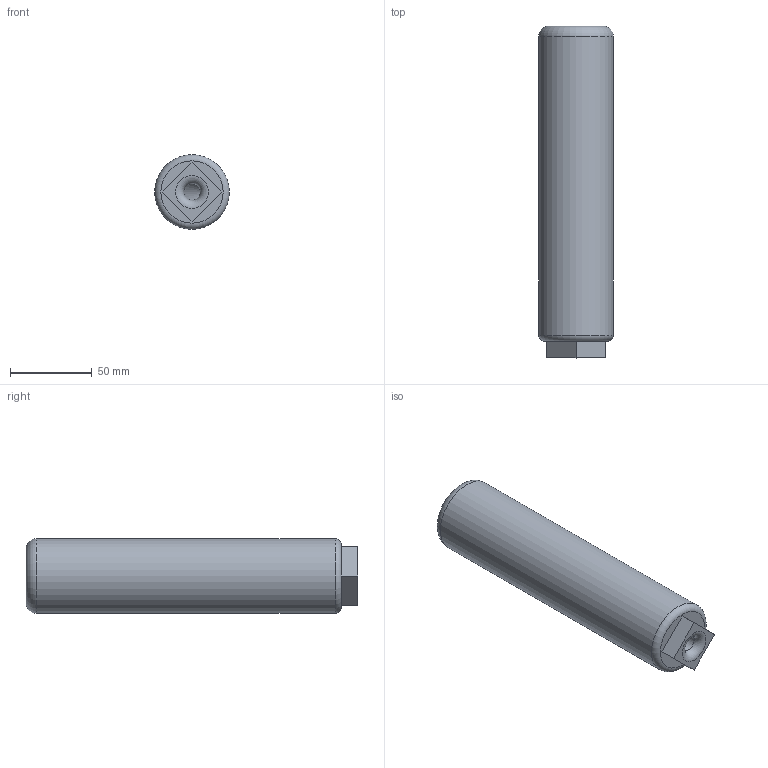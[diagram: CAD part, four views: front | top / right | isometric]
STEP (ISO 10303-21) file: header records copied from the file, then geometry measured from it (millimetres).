
FILE_DESCRIPTION(/* description */ (''),/* implementation_level */ '2;1');
FILE_NAME(/* name */ 'C:/Users/Owner/Desktop/liberator suppressed/STEP Files/36 Caliber versions/36 Cal Liberator Suppressor can 8 inch.step',/* time_stamp */ '2020-04-23T21:47:06-04:00',/* author */ (''),/* organization */ (''),/* preprocessor_version */ 'ST-DEVELOPER v18.1',/* originating_system */ 'Autodesk Translation Framework v9.2.0.1227',/* authorisation */ '');
FILE_SCHEMA (('AUTOMOTIVE_DESIGN { 1 0 10303 214 3 1 1 }'));
Length unit declared in the file: inch
Products named in the file (1): 38/9mm lib sup 8 inch
Bounding box: 45.72 x 203.2 x 45.72 mm (x, y, z)
Volume: 219014.2 mm3; surface area: 49619.8 mm2
Topology: 1 solids, 1 shells, 49 faces, 131 edges, 86 vertices
Faces by surface type: cylinder 33, plane 9, torus 5, bspline 2
Full cylindrical faces by diameter (mm): 10.16 x1, 27.038 x15, 30.162 x13, 45.72 x1
Entity records: 4315 total; most frequent: CARTESIAN_POINT 3137, ORIENTED_EDGE 262, DIRECTION 202, EDGE_CURVE 131, VERTEX_POINT 86, AXIS2_PLACEMENT_3D 79, B_SPLINE_CURVE_WITH_KNOTS 56, EDGE_LOOP 53
